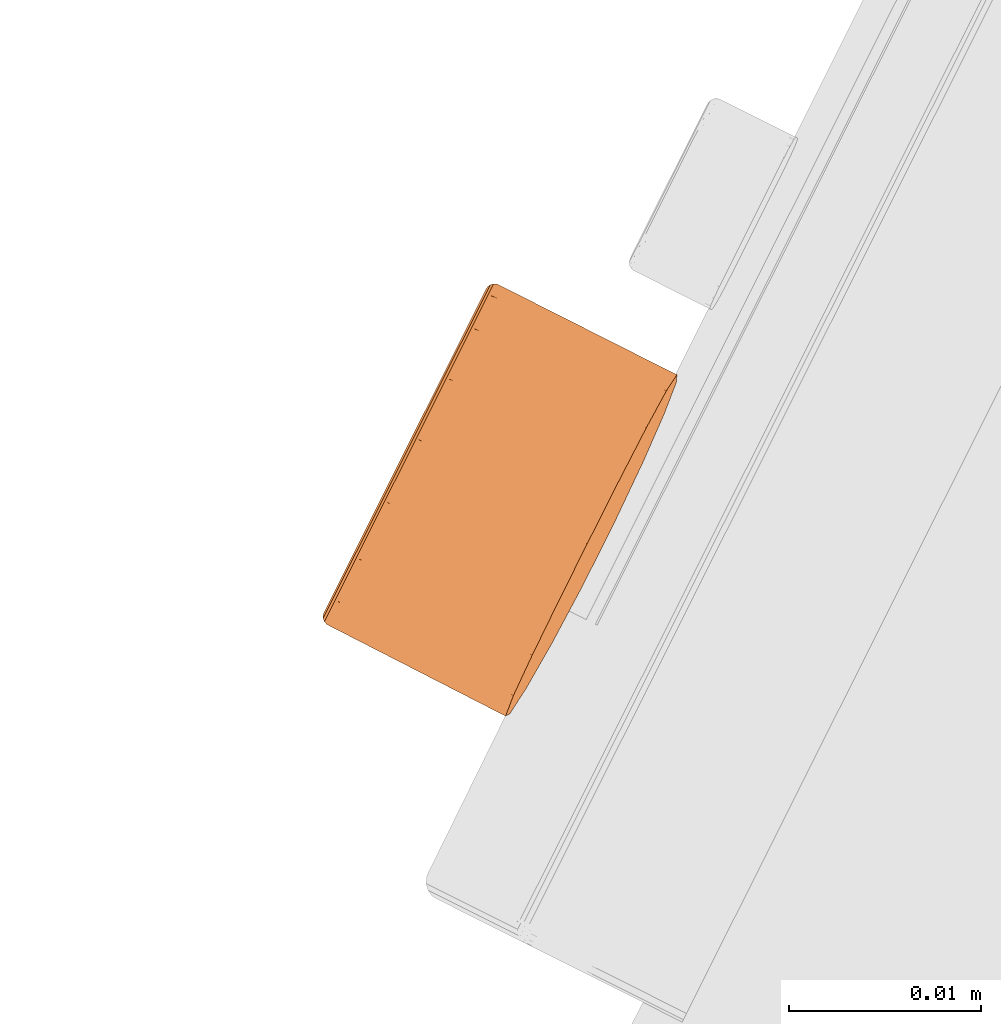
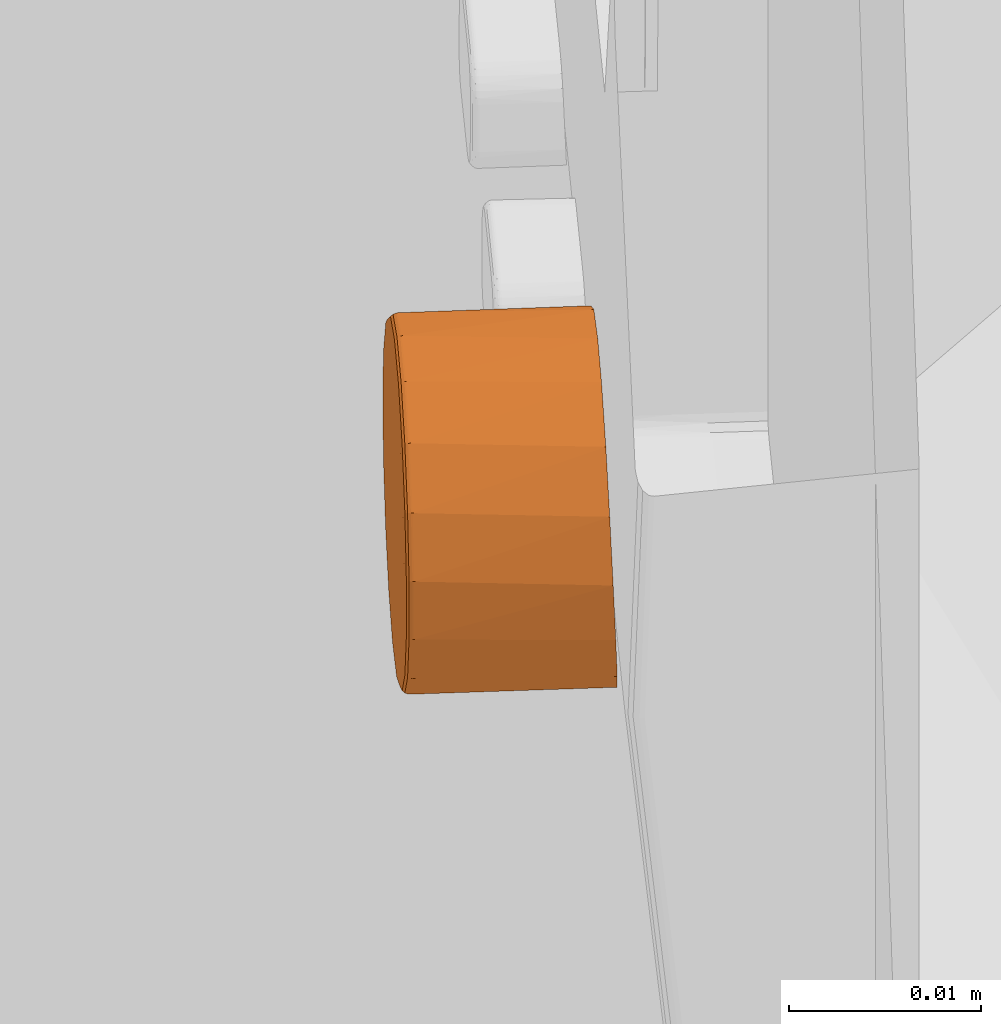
# One storey, part 196 of 206: 1 proxy.
"""IFC2X3 building model written with IfcOpenShell, lengths in metres."""

import ifcopenshell
import ifcopenshell.guid

model = None  # the IFC model being written
_history = None  # IfcOwnerHistory: only IFC2X3 demands one
_inside = {}  # id of a spatial element -> (the spatial element, [elements in it])
_under = {}  # id of a project, library or spatial element -> (it, [spatial elements below it])
_declared = {}  # id of a project -> (the project, [libraries it declares])
_typed = {}  # id of a type object -> (the type object, [elements of that type])
_made_of = {}  # id of a material, layer set ... -> (it, [elements and type objects made of it])


def new_model(schema):
    """Start an empty IFC model of exactly this schema.

    Asked for "IFC4X3", IfcOpenShell would pick the latest addendum, in which some entities
    have other attributes; the version numbers below select the first issue.
    IFC2X3 requires an IfcOwnerHistory on every rooted entity: one is made here for all.
    """
    global model, _history
    if schema == "IFC4X3":
        model = ifcopenshell.file(schema_version=(4, 3, 0, 0))
    else:
        model = ifcopenshell.file(schema=schema)
    _inside.clear()
    _under.clear()
    _declared.clear()
    _typed.clear()
    _made_of.clear()
    _history = None
    if model.schema == "IFC2X3":
        org = make("IfcOrganization", Name="unknown")
        user = make(
            "IfcPersonAndOrganization",
            ThePerson=make("IfcPerson", FamilyName="unknown"),
            TheOrganization=org,
        )
        app = make(
            "IfcApplication",
            ApplicationDeveloper=org,
            Version="unknown",
            ApplicationFullName="unknown",
            ApplicationIdentifier="unknown",
        )
        _history = make(
            "IfcOwnerHistory",
            OwningUser=user,
            OwningApplication=app,
            ChangeAction="ADDED",
            CreationDate=0,
        )
    return model


def make(cls, **values):
    """One entity of the class cls with the attributes given. An attribute that is None is left unset."""
    return model.create_entity(
        cls, **{name: value for name, value in values.items() if value is not None}
    )


def rooted(cls, **values):
    """An entity with a GlobalId (a new one), such as an element, a storey or a relation."""
    return make(cls, GlobalId=ifcopenshell.guid.new(), OwnerHistory=_history, **values)


def si_unit(unit_type, name, prefix=None):
    """IfcSIUnit, for example si_unit("LENGTHUNIT", "METRE", prefix="MILLI")."""
    return make("IfcSIUnit", UnitType=unit_type, Prefix=prefix, Name=name)


def derived_unit(unit_type, elements):
    """IfcDerivedUnit: a product of units, each with its exponent."""
    return make(
        "IfcDerivedUnit",
        Elements=[
            make("IfcDerivedUnitElement", Unit=unit, Exponent=power)
            for unit, power in elements
        ],
        UnitType=unit_type,
    )


def assignment(units):
    """IfcUnitAssignment: the units of a project."""
    return None if units is None else make("IfcUnitAssignment", Units=units)


def point(xyz):
    """IfcCartesianPoint."""
    return None if xyz is None else make("IfcCartesianPoint", Coordinates=xyz)


def direction(xyz):
    """IfcDirection."""
    return None if xyz is None else make("IfcDirection", DirectionRatios=xyz)


def frame(location, z_axis=None, x_axis=None):
    """IfcAxis2Placement3D, a coordinate frame: its origin and axes. An axis left out is left unset."""
    return make(
        "IfcAxis2Placement3D",
        Location=point(location),
        Axis=direction(z_axis),
        RefDirection=direction(x_axis),
    )


def origin():
    """The frame at (0, 0, 0) with its axes left unset."""
    return frame((0.0, 0.0, 0.0))


def place(relative_to, where):
    """IfcLocalPlacement: puts the frame where relative to a parent placement (None: the world)."""
    return make(
        "IfcLocalPlacement", PlacementRelTo=relative_to, RelativePlacement=where
    )


def context(
    kind, dimensions, precision=None, world=None, true_north=None, identifier=None
):
    """IfcGeometricRepresentationContext, for example the 3D "Model" context."""
    return make(
        "IfcGeometricRepresentationContext",
        ContextIdentifier=identifier,
        ContextType=kind,
        CoordinateSpaceDimension=dimensions,
        Precision=precision,
        WorldCoordinateSystem=world,
        TrueNorth=true_north,
    )


def subcontext(parent, identifier, kind, view, scale=None):
    """IfcGeometricRepresentationSubContext, for example "Body" below "Model"."""
    return make(
        "IfcGeometricRepresentationSubContext",
        ContextIdentifier=identifier,
        ContextType=kind,
        ParentContext=parent,
        TargetScale=scale,
        TargetView=view,
    )


def project(units=None, contexts=None):
    """IfcProject with its units and contexts."""
    return rooted(
        "IfcProject",
        Name="project",
        RepresentationContexts=contexts,
        UnitsInContext=assignment(units),
    )


def spatial(cls, under=None, at=None, **own):
    """A site, building, storey or space (cls), placed at a placement, below another one or the project."""
    s = rooted(cls, ObjectPlacement=at, **own)
    if under is not None:
        _under.setdefault(under.id(), (under, []))[1].append(s)
    return s


def faces_of(points, faces, orient=None, outer=None):
    """IfcFace entities. A face is a list of loops; a loop is a list of indices into points, from 0.

    orient and outer hold one flag for each loop. By default every Orientation is true, the
    first loop of a face is its IfcFaceOuterBound and the others are IfcFaceBound.
    """
    made = []
    for i, loops in enumerate(faces):
        bounds = []
        for j, loop in enumerate(loops):
            is_outer = j == 0 if outer is None else outer[i][j]
            bounds.append(
                make(
                    "IfcFaceOuterBound" if is_outer else "IfcFaceBound",
                    Bound=make("IfcPolyLoop", Polygon=[points[k] for k in loop]),
                    Orientation=True if orient is None else orient[i][j],
                )
            )
        made.append(make("IfcFace", Bounds=bounds))
    return made


def faceted_brep(points, faces, orient=None, outer=None, voids=None):
    """IfcFacetedBrep: a solid bounded by flat faces; with voids (closed shells), ...WithVoids."""
    shared = [point(p) for p in points]
    hull = make("IfcClosedShell", CfsFaces=faces_of(shared, faces, orient, outer))
    if voids is None:
        return make("IfcFacetedBrep", Outer=hull)
    return make(
        "IfcFacetedBrepWithVoids",
        Outer=hull,
        Voids=[
            make(cls, CfsFaces=faces_of(shared, fs, o, b)) for cls, fs, o, b in voids
        ],
    )


def shape(context_of_items, identifier, shape_type, items):
    """IfcShapeRepresentation: the items that make up one representation, for example the "Body"."""
    return make(
        "IfcShapeRepresentation",
        ContextOfItems=context_of_items,
        RepresentationIdentifier=identifier,
        RepresentationType=shape_type,
        Items=items,
    )


def source(mapping_origin, context_of_items, identifier, shape_type, items):
    """IfcRepresentationMap: a shape defined once, which mapped items show again and again."""
    return make(
        "IfcRepresentationMap",
        MappingOrigin=mapping_origin,
        MappedRepresentation=shape(context_of_items, identifier, shape_type, items),
    )


def transform(
    local_origin,
    x_axis=None,
    y_axis=None,
    z_axis=None,
    scale=None,
    scale2=None,
    scale3=None,
    uniform=True,
):
    """IfcCartesianTransformationOperator3D, or its non-uniform kind. x_axis, y_axis, z_axis: its Axis1, 2, 3."""
    if uniform:
        return make(
            "IfcCartesianTransformationOperator3D",
            Axis1=direction(x_axis),
            Axis2=direction(y_axis),
            LocalOrigin=point(local_origin),
            Scale=scale,
            Axis3=direction(z_axis),
        )
    return make(
        "IfcCartesianTransformationOperator3DnonUniform",
        Axis1=direction(x_axis),
        Axis2=direction(y_axis),
        LocalOrigin=point(local_origin),
        Scale=scale,
        Axis3=direction(z_axis),
        Scale2=scale2,
        Scale3=scale3,
    )


def mapped(mapping_source, mapping_target):
    """IfcMappedItem: shows the shape of a source again, moved by a transform."""
    return make(
        "IfcMappedItem", MappingSource=mapping_source, MappingTarget=mapping_target
    )


def material(Name=None, Category=None):
    """IfcMaterial."""
    return make("IfcMaterial", Name=Name, Category=Category)


def made_of(thing, what):
    """Note that an element or type object is made of a material, layer set ...; save() writes the relation."""
    if what is not None:
        _made_of.setdefault(what.id(), (what, []))[1].append(thing)
    return thing


def type_object(cls, material=None, **own):
    """A type object (cls), such as IfcWallType, which elements share."""
    return made_of(rooted(cls, **own), material)


def type_shapes(of_type, sources):
    """Give a type object the sources (RepresentationMaps) that its elements show as mapped items."""
    of_type.RepresentationMaps = sources


def element(
    cls,
    number,
    at=None,
    inside=None,
    cuts=None,
    type_object=None,
    material=None,
    context=None,
    identifier="Body",
    shape_type=None,
    held_by="IfcProductDefinitionShape",
    body=None,
    shapes=None,
    **own,
):
    """One element of the class cls, such as IfcWall. Its Tag is "e" and its number.

    at: its placement. inside: the storey or other place that contains it. cuts: it is an
    opening in that element (IfcRelVoidsElement). A single representation is given by context,
    identifier, shape_type and body (its items); several are given by shapes. held_by: the class
    of the entity that holds the representations. save() writes the other relations.
    """
    e = rooted(cls, Tag="e%d" % number, ObjectPlacement=at, **own)
    if body is not None:
        shapes = [shape(context, identifier, shape_type, body)]
    if shapes is not None:
        e.Representation = make(held_by, Representations=shapes)
    if inside is not None:
        _inside.setdefault(inside.id(), (inside, []))[1].append(e)
    if cuts is not None:
        rooted(
            "IfcRelVoidsElement", RelatingBuildingElement=cuts, RelatedOpeningElement=e
        )
    if type_object is not None:
        _typed.setdefault(type_object.id(), (type_object, []))[1].append(e)
    return made_of(e, material)


def aggregate(whole, parts):
    """IfcRelAggregates: a whole, such as a stair, and the parts it consists of."""
    return rooted("IfcRelAggregates", RelatingObject=whole, RelatedObjects=parts)


def save(model, path):
    """Write the relations noted so far, then the file.

    IfcRelAggregates (storeys below a building ...), IfcRelContainedInSpatialStructure (elements
    in a storey), IfcRelDefinesByType, IfcRelAssociatesMaterial and IfcRelDeclares: one each for
    every whole, place, type object, material and project.
    """
    for whole, parts in _under.values():
        aggregate(whole, parts)
    for where, things in _inside.values():
        rooted(
            "IfcRelContainedInSpatialStructure",
            RelatedElements=things,
            RelatingStructure=where,
        )
    for kind, things in _typed.values():
        rooted("IfcRelDefinesByType", RelatedObjects=things, RelatingType=kind)
    for what, things in _made_of.values():
        rooted("IfcRelAssociatesMaterial", RelatedObjects=things, RelatingMaterial=what)
    for by, libraries in _declared.values():
        rooted("IfcRelDeclares", RelatingContext=by, RelatedDefinitions=libraries)
    model.write(path)


model = new_model("IFC2X3")

# Units and contexts
model_context = context("Model", 3, precision=5.2338327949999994e-05, world=origin(), true_north=direction((0.0, 1.0)))
body_context = subcontext(model_context, "Body", "Model", "MODEL_VIEW")
ifc_project = project(units=[si_unit("LENGTHUNIT", "METRE"), si_unit("AREAUNIT", "SQUARE_METRE"), si_unit("VOLUMEUNIT", "CUBIC_METRE"), si_unit("MASSUNIT", "GRAM", prefix="KILO"), si_unit("PLANEANGLEUNIT", "RADIAN"), derived_unit("THERMALTRANSMITTANCEUNIT", [(si_unit("MASSUNIT", "GRAM", prefix="KILO"), 1), (si_unit("THERMODYNAMICTEMPERATUREUNIT", "KELVIN"), -1), (si_unit("TIMEUNIT", "SECOND"), -3)])], contexts=[model_context])

# Site, building, storey
site_placement = place(None, frame((0.0, 0.0, 0.0), z_axis=(0.0, 0.0, 1.0), x_axis=(0.8939966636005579, -0.4480736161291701, 0.0)))
site = spatial("IfcSite", under=ifc_project, at=site_placement, Name="Default", CompositionType="ELEMENT")
building_placement = place(site_placement, origin())
building = spatial("IfcBuilding", under=site, at=building_placement, CompositionType="ELEMENT")
storey_placement = place(building_placement, origin())
storey = spatial("IfcBuildingStorey", under=building, at=storey_placement, Name="Erdgeschoss", CompositionType="ELEMENT", Elevation=0.0)

# Proxy
ifc_material = material(Name="IfcSurfaceStyle #623543")
building_element_proxy_type = type_object("IfcBuildingElementProxyType", Name="BuildingElementProxy 61:BuildingElementProxy 61", PredefinedType="NOTDEFINED", material=ifc_material)
shared_shape = source(origin(), body_context, "Body", "Brep", [
    faceted_brep([(21.223125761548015, 4.482972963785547, 0.6768511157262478), (21.22313354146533, 4.479767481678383, 0.6763233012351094), (21.223135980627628, 4.486607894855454, 0.6761670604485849), (21.223166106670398, 4.476513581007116, 0.6744847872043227), (21.223172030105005, 4.489761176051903, 0.6741940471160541), (21.223232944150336, 4.474199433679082, 0.6716492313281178), (21.22324413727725, 4.491956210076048, 0.6712441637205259), (21.223345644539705, 4.473049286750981, 0.6680830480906), (21.22336179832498, 4.4929414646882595, 0.6676420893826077), (21.223493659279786, 4.473267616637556, 0.6644418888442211), (21.22351373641, 4.492558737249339, 0.6640033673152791), (21.223662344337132, 4.474838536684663, 0.6610347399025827), (21.223681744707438, 4.490839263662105, 0.6606771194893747), (21.22380637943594, 4.4774617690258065, 0.6585068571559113), (21.223820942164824, 4.488100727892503, 0.6582660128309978), (21.223895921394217, 4.480929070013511, 0.6570622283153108), (21.223901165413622, 4.48457394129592, 0.6569801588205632), (21.21296936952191, 4.492297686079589, 0.6632386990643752), (21.212877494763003, 4.492289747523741, 0.6632417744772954), (21.21296936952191, 4.492972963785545, 0.6668511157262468), (21.212877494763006, 4.492964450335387, 0.6668511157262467), (21.21296936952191, 4.492297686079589, 0.6704635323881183), (21.212877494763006, 4.49228974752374, 0.6704604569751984), (21.21296936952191, 4.490363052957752, 0.6735880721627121), (21.212877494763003, 4.490356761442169, 0.6735823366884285), (21.21296936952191, 4.48743034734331, 0.6758027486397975), (21.212877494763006, 4.4874265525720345, 0.6757951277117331), (21.21296936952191, 4.483895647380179, 0.6768084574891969), (21.212877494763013, 4.483894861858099, 0.6767999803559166), (21.21296936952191, 4.480236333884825, 0.676469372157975), (21.212877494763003, 4.480238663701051, 0.6764611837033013), (21.21296936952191, 4.4769466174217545, 0.6748312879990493), (21.212877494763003, 4.476951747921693, 0.6748244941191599), (21.21296936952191, 4.4744707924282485, 0.6721154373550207), (21.212877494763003, 4.474478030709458, 0.6721109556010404), (21.212969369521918, 4.473143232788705, 0.6686886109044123), (21.212877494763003, 4.473151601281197, 0.6686870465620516), (21.212969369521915, 4.473143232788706, 0.665013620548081), (21.212877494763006, 4.473151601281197, 0.6650151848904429), (21.21296936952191, 4.4744707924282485, 0.6615867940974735), (21.212877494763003, 4.474478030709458, 0.6615912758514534), (21.212969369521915, 4.476946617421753, 0.6588709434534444), (21.212877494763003, 4.476951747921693, 0.6588777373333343), (21.21296936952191, 4.4802363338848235, 0.6572328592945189), (21.212877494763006, 4.48023866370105, 0.6572410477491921), (21.21296936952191, 4.483895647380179, 0.6568937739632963), (21.212877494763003, 4.483894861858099, 0.6569022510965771), (21.21296936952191, 4.48743034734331, 0.6578994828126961), (21.212877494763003, 4.487426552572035, 0.65790710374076), (21.212969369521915, 4.490363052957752, 0.660114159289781), (21.212877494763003, 4.490356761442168, 0.6601198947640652), (21.21246936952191, 4.491831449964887, 0.6702829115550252), (21.212488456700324, 4.491959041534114, 0.6703323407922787), (21.21246936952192, 4.492472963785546, 0.6668511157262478), (21.212488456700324, 4.4926097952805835, 0.666851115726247), (21.212469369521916, 4.491831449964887, 0.6634193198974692), (21.212488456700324, 4.491959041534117, 0.6633698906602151), (21.212469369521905, 4.489993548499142, 0.660451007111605), (21.212488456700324, 4.490094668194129, 0.6603588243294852), (21.21246936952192, 4.487207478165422, 0.6583470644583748), (21.212488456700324, 4.487268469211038, 0.6582245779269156), (21.212469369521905, 4.483849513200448, 0.657391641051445), (21.21248845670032, 4.483862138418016, 0.6572553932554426), (21.212469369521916, 4.480373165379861, 0.6577137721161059), (21.212488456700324, 4.480335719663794, 0.6575821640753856), (21.212469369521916, 4.477247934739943, 0.6592699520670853), (21.212488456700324, 4.477165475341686, 0.6591607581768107), (21.212469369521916, 4.474895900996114, 0.6618500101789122), (21.212488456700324, 4.474779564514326, 0.6617779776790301), (21.212469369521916, 4.47363471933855, 0.6651054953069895), (21.212488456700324, 4.473500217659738, 0.6650803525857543), (21.212469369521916, 4.4736347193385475, 0.6685967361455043), (21.212488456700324, 4.473500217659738, 0.6686218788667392), (21.212469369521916, 4.474895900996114, 0.6718522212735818), (21.212488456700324, 4.474779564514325, 0.671924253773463), (21.212469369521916, 4.477247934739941, 0.6744322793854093), (21.212488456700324, 4.477165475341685, 0.6745414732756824), (21.212469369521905, 4.480373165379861, 0.6759884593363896), (21.212488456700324, 4.480335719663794, 0.6761200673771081), (21.21246936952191, 4.483849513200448, 0.6763105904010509), (21.212488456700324, 4.483862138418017, 0.6764468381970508), (21.21246936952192, 4.487207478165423, 0.67535516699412), (21.212488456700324, 4.487268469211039, 0.6754776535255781), (21.212469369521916, 4.489993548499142, 0.6732512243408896), (21.212488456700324, 4.49009466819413, 0.6733434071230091), (21.212706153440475, 4.492898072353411, 0.6668511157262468), (21.212706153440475, 4.492227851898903, 0.670436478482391), (21.212706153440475, 4.490307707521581, 0.6735376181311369), (21.21270615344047, 4.487396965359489, 0.6757357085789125), (21.21270615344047, 4.483888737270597, 0.676733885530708), (21.21270615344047, 4.4802568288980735, 0.6763973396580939), (21.212706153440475, 4.476991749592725, 0.6747715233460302), (21.212706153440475, 4.474534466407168, 0.6720760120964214), (21.212706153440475, 4.473216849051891, 0.6686748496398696), (21.212706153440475, 4.473216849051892, 0.6650273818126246), (21.21270615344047, 4.47453446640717, 0.6616262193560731), (21.212706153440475, 4.476991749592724, 0.658930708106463), (21.212706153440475, 4.4802568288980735, 0.6573048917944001), (21.21270615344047, 4.483888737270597, 0.6569683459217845), (21.21270615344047, 4.48739696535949, 0.6579665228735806), (21.212706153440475, 4.4903077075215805, 0.6601646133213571), (21.21270615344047, 4.492227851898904, 0.6632657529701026), (21.212570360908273, 4.492774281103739, 0.6668511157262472), (21.212570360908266, 4.4921124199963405, 0.6703917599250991), (21.212570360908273, 4.490216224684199, 0.6734542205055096), (21.212570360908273, 4.487341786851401, 0.6756248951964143), (21.212570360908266, 4.483877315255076, 0.676610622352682), (21.212570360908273, 4.480290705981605, 0.6762782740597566), (21.212570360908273, 4.47706635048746, 0.6746727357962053), (21.212570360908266, 4.474639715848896, 0.6720108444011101), (21.212570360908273, 4.473338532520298, 0.6686521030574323), (21.212570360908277, 4.4733385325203, 0.6650501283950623), (21.212570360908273, 4.474639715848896, 0.6616913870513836), (21.212570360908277, 4.477066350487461, 0.6590294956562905), (21.212570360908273, 4.480290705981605, 0.657423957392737), (21.212570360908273, 4.483877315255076, 0.6570916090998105), (21.212570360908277, 4.4873417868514, 0.6580773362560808), (21.212570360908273, 4.4902162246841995, 0.6602480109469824), (21.212570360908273, 4.4921124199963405, 0.6633104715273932)], [[[0, 1, 2]], [[2, 1, 3]], [[2, 3, 4]], [[4, 3, 5]], [[4, 5, 6]], [[6, 5, 7]], [[6, 7, 8]], [[8, 7, 9]], [[8, 9, 10]], [[10, 9, 11]], [[10, 11, 12]], [[12, 11, 13]], [[12, 13, 14]], [[14, 13, 15]], [[14, 15, 16]], [[17, 18, 19]], [[19, 18, 20]], [[19, 20, 21]], [[21, 20, 22]], [[21, 22, 23]], [[23, 22, 24]], [[23, 24, 25]], [[25, 24, 26]], [[25, 26, 27]], [[27, 26, 28]], [[27, 28, 29]], [[29, 28, 30]], [[29, 30, 31]], [[31, 30, 32]], [[31, 32, 33]], [[33, 32, 34]], [[33, 34, 35]], [[35, 34, 36]], [[35, 36, 37]], [[37, 36, 38]], [[37, 38, 39]], [[39, 38, 40]], [[39, 40, 41]], [[41, 40, 42]], [[41, 42, 43]], [[43, 42, 44]], [[43, 44, 45]], [[45, 44, 46]], [[45, 46, 47]], [[47, 46, 48]], [[47, 48, 49]], [[49, 48, 50]], [[49, 50, 17]], [[17, 50, 18]], [[51, 52, 53]], [[53, 52, 54]], [[53, 54, 55]], [[55, 54, 56]], [[55, 56, 57]], [[57, 56, 58]], [[57, 58, 59]], [[59, 58, 60]], [[59, 60, 61]], [[61, 60, 62]], [[61, 62, 63]], [[63, 62, 64]], [[63, 64, 65]], [[65, 64, 66]], [[65, 66, 67]], [[67, 66, 68]], [[67, 68, 69]], [[69, 68, 70]], [[69, 70, 71]], [[71, 70, 72]], [[71, 72, 73]], [[73, 72, 74]], [[73, 74, 75]], [[75, 74, 76]], [[75, 76, 77]], [[77, 76, 78]], [[77, 78, 79]], [[79, 78, 80]], [[79, 80, 81]], [[81, 80, 82]], [[81, 82, 83]], [[83, 82, 84]], [[83, 84, 51]], [[51, 84, 52]], [[20, 85, 22]], [[22, 85, 86]], [[22, 86, 24]], [[24, 86, 87]], [[24, 87, 26]], [[26, 87, 88]], [[26, 88, 28]], [[28, 88, 89]], [[28, 89, 30]], [[30, 89, 90]], [[30, 90, 32]], [[32, 90, 91]], [[32, 91, 34]], [[34, 91, 92]], [[34, 92, 36]], [[36, 92, 93]], [[36, 93, 38]], [[38, 93, 94]], [[38, 94, 40]], [[40, 94, 95]], [[40, 95, 42]], [[42, 95, 96]], [[42, 96, 44]], [[44, 96, 97]], [[44, 97, 46]], [[46, 97, 98]], [[46, 98, 48]], [[48, 98, 99]], [[48, 99, 50]], [[50, 99, 100]], [[50, 100, 18]], [[18, 100, 101]], [[18, 101, 20]], [[20, 101, 85]], [[85, 102, 86]], [[86, 102, 103]], [[86, 103, 87]], [[87, 103, 104]], [[87, 104, 88]], [[88, 104, 105]], [[88, 105, 89]], [[89, 105, 106]], [[89, 106, 90]], [[90, 106, 107]], [[90, 107, 91]], [[91, 107, 108]], [[91, 108, 92]], [[92, 108, 109]], [[92, 109, 93]], [[93, 109, 110]], [[93, 110, 94]], [[94, 110, 111]], [[94, 111, 95]], [[95, 111, 112]], [[95, 112, 96]], [[96, 112, 113]], [[96, 113, 97]], [[97, 113, 114]], [[97, 114, 98]], [[98, 114, 115]], [[98, 115, 99]], [[99, 115, 116]], [[99, 116, 100]], [[100, 116, 117]], [[100, 117, 101]], [[101, 117, 118]], [[101, 118, 85]], [[85, 118, 102]], [[102, 54, 103]], [[103, 54, 52]], [[103, 52, 104]], [[104, 52, 84]], [[104, 84, 105]], [[105, 84, 82]], [[105, 82, 106]], [[106, 82, 80]], [[106, 80, 107]], [[107, 80, 78]], [[107, 78, 108]], [[108, 78, 76]], [[108, 76, 109]], [[109, 76, 74]], [[109, 74, 110]], [[110, 74, 72]], [[110, 72, 111]], [[111, 72, 70]], [[111, 70, 112]], [[112, 70, 68]], [[112, 68, 113]], [[113, 68, 66]], [[113, 66, 114]], [[114, 66, 64]], [[114, 64, 115]], [[115, 64, 62]], [[115, 62, 116]], [[116, 62, 60]], [[116, 60, 117]], [[117, 60, 58]], [[117, 58, 118]], [[118, 58, 56]], [[118, 56, 102]], [[102, 56, 54]], [[61, 63, 59]], [[59, 63, 65]], [[59, 65, 57]], [[57, 65, 67]], [[57, 67, 55]], [[55, 67, 69]], [[55, 69, 53]], [[53, 69, 71]], [[53, 71, 51]], [[51, 71, 73]], [[51, 73, 83]], [[83, 73, 75]], [[83, 75, 81]], [[81, 75, 77]], [[81, 77, 79]], [[2, 27, 0]], [[0, 27, 29]], [[0, 29, 1]], [[1, 29, 31]], [[1, 31, 3]], [[3, 31, 33]], [[3, 33, 5]], [[5, 33, 35]], [[5, 35, 7]], [[7, 35, 37]], [[7, 37, 9]], [[9, 37, 39]], [[9, 39, 11]], [[11, 39, 41]], [[11, 41, 13]], [[13, 41, 43]], [[13, 43, 15]], [[15, 43, 45]], [[15, 45, 16]], [[16, 45, 47]], [[16, 47, 14]], [[14, 47, 49]], [[14, 49, 12]], [[12, 49, 17]], [[12, 17, 10]], [[10, 17, 19]], [[10, 19, 8]], [[8, 19, 21]], [[8, 21, 6]], [[6, 21, 23]], [[6, 23, 4]], [[4, 23, 25]], [[4, 25, 2]], [[2, 25, 27]]]),
])
type_shapes(building_element_proxy_type, [shared_shape])
proxy_placement = place(storey_placement, origin())
element("IfcBuildingElementProxy", 1, at=proxy_placement, inside=storey, type_object=building_element_proxy_type, material=ifc_material, Name="BuildingElementProxy 61", context=body_context, shape_type="MappedRepresentation", body=[
    mapped(shared_shape, transform((0.0, 0.0, 0.0), scale=1.0)),
])

save(model, "model.ifc")
